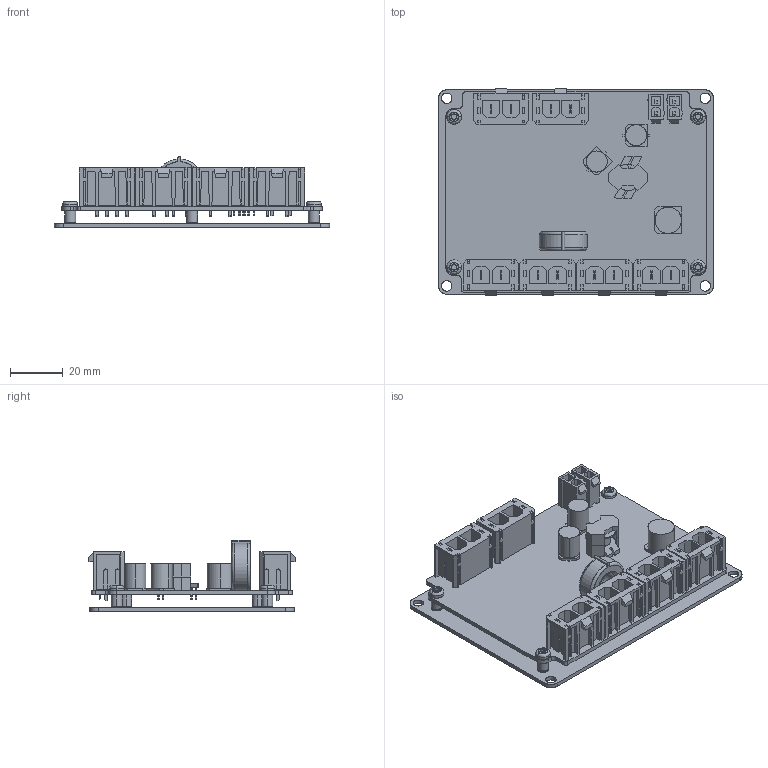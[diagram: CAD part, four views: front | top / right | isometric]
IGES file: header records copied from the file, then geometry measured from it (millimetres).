
Start section: SolidWorks IGES file using analytic representation for surfaces
Global section: file name: C:\TeknicPDM\clearpath\clearpath sc\clearpath sc customer downloadable\POWER4-HUB.IGS; native system: SolidWorks 2020; preprocessor: SolidWorks 2020; author: mike_berezny; date: 231026.134517; units: inch
Bounding box: 104.65 x 78.38 x 27.06 mm (x, y, z)
Surface area: 52357.1 mm2 (no closed solid volume)
Topology: 0 solids, 0 shells, 1947 faces, 19501 edges, 19500 vertices
Faces by surface type: bspline 1478, revolution 469
